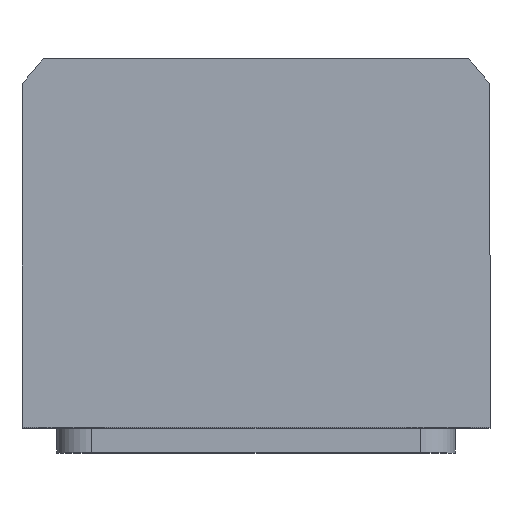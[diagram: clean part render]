
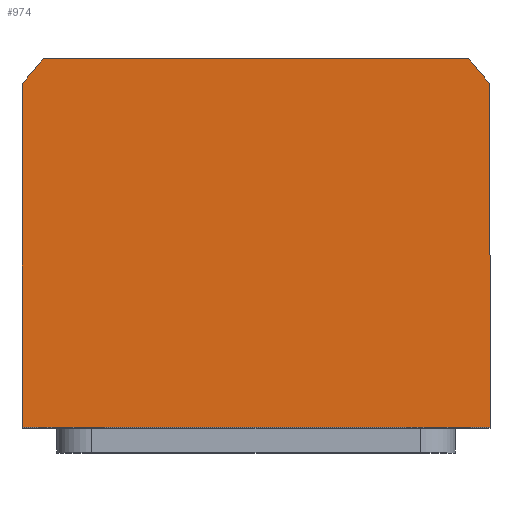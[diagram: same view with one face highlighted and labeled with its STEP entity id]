
A CAD part, top view. The second image highlights one B-rep face of the part: STEP entity #974.
In plain terms, the highlighted planar face has unit normal (0, 0, 1).
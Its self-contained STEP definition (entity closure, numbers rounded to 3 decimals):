
#75 = DIRECTION ( 'NONE',  ( 0., 0., 1. ) ) ;
#260 = VECTOR ( 'NONE', #3658, 1000. ) ;
#347 = CARTESIAN_POINT ( 'NONE',  ( 0., 0., 65. ) ) ;
#351 = CARTESIAN_POINT ( 'NONE',  ( -47., 34.832, 65. ) ) ;
#449 = DIRECTION ( 'NONE',  ( 1., 0., 0. ) ) ;
#511 = EDGE_CURVE ( 'NONE', #5786, #3530, #5186, .T. ) ;
#842 = ORIENTED_EDGE ( 'NONE', *, *, #4608, .T. ) ;
#974 = ADVANCED_FACE ( 'NONE', ( #4061 ), #8659, .T. ) ;
#1764 = ORIENTED_EDGE ( 'NONE', *, *, #9529, .T. ) ;
#1770 = VECTOR ( 'NONE', #6564, 1000. ) ;
#2018 = CARTESIAN_POINT ( 'NONE',  ( 47., -34., 65. ) ) ;
#2034 = LINE ( 'NONE', #2720, #260 ) ;
#2231 = DIRECTION ( 'NONE',  ( -1., 0., 0. ) ) ;
#2345 = CARTESIAN_POINT ( 'NONE',  ( 42.688, 40., 65. ) ) ;
#2381 = CARTESIAN_POINT ( 'NONE',  ( 0., 0., 65. ) ) ;
#2581 = EDGE_CURVE ( 'NONE', #3369, #10871, #3793, .T. ) ;
#2720 = CARTESIAN_POINT ( 'NONE',  ( 47., -34., 65. ) ) ;
#3246 = AXIS2_PLACEMENT_3D ( 'NONE', #2381, #8379, #4007 ) ;
#3369 = VERTEX_POINT ( 'NONE', #2345 ) ;
#3370 = EDGE_CURVE ( 'NONE', #10871, #5226, #6932, .T. ) ;
#3530 = VERTEX_POINT ( 'NONE', #8620 ) ;
#3538 = VECTOR ( 'NONE', #5063, 1000. ) ;
#3658 = DIRECTION ( 'NONE',  ( 1., 0., 0. ) ) ;
#3791 = EDGE_LOOP ( 'NONE', ( #1764, #9853, #842, #7602, #9112, #9355 ) ) ;
#3793 = LINE ( 'NONE', #7445, #11315 ) ;
#3921 = CARTESIAN_POINT ( 'NONE',  ( -47., -34., 65. ) ) ;
#4007 = DIRECTION ( 'NONE',  ( 1., 0., 0. ) ) ;
#4061 = FACE_OUTER_BOUND ( 'NONE', #3791, .T. ) ;
#4608 = EDGE_CURVE ( 'NONE', #3530, #3369, #7590, .T. ) ;
#5063 = DIRECTION ( 'NONE',  ( 0., 1., 0. ) ) ;
#5186 = LINE ( 'NONE', #8540, #3538 ) ;
#5226 = VERTEX_POINT ( 'NONE', #351 ) ;
#5264 = AXIS2_PLACEMENT_3D ( 'NONE', #10489, #75, #10537 ) ;
#5786 = VERTEX_POINT ( 'NONE', #2018 ) ;
#6564 = DIRECTION ( 'NONE',  ( 0., -1., 0. ) ) ;
#6932 = CIRCLE ( 'NONE', #3246, 58.5 ) ;
#7245 = AXIS2_PLACEMENT_3D ( 'NONE', #347, #7285, #449 ) ;
#7285 = DIRECTION ( 'NONE',  ( 0., 0., 1. ) ) ;
#7387 = CARTESIAN_POINT ( 'NONE',  ( -47., -34., 65. ) ) ;
#7445 = CARTESIAN_POINT ( 'NONE',  ( -42.688, 40., 65. ) ) ;
#7590 = CIRCLE ( 'NONE', #7245, 58.5 ) ;
#7602 = ORIENTED_EDGE ( 'NONE', *, *, #2581, .T. ) ;
#8168 = EDGE_CURVE ( 'NONE', #5226, #9330, #10216, .T. ) ;
#8379 = DIRECTION ( 'NONE',  ( 0., 0., 1. ) ) ;
#8540 = CARTESIAN_POINT ( 'NONE',  ( 47., 34.832, 65. ) ) ;
#8620 = CARTESIAN_POINT ( 'NONE',  ( 47., 34.832, 65. ) ) ;
#8659 = PLANE ( 'NONE',  #5264 ) ;
#9112 = ORIENTED_EDGE ( 'NONE', *, *, #3370, .T. ) ;
#9330 = VERTEX_POINT ( 'NONE', #3921 ) ;
#9355 = ORIENTED_EDGE ( 'NONE', *, *, #8168, .T. ) ;
#9529 = EDGE_CURVE ( 'NONE', #9330, #5786, #2034, .T. ) ;
#9853 = ORIENTED_EDGE ( 'NONE', *, *, #511, .T. ) ;
#10216 = LINE ( 'NONE', #7387, #1770 ) ;
#10489 = CARTESIAN_POINT ( 'NONE',  ( 0., 0., 65. ) ) ;
#10537 = DIRECTION ( 'NONE',  ( 1., 0., 0. ) ) ;
#10871 = VERTEX_POINT ( 'NONE', #10988 ) ;
#10988 = CARTESIAN_POINT ( 'NONE',  ( -42.688, 40., 65. ) ) ;
#11315 = VECTOR ( 'NONE', #2231, 1000. ) ;
